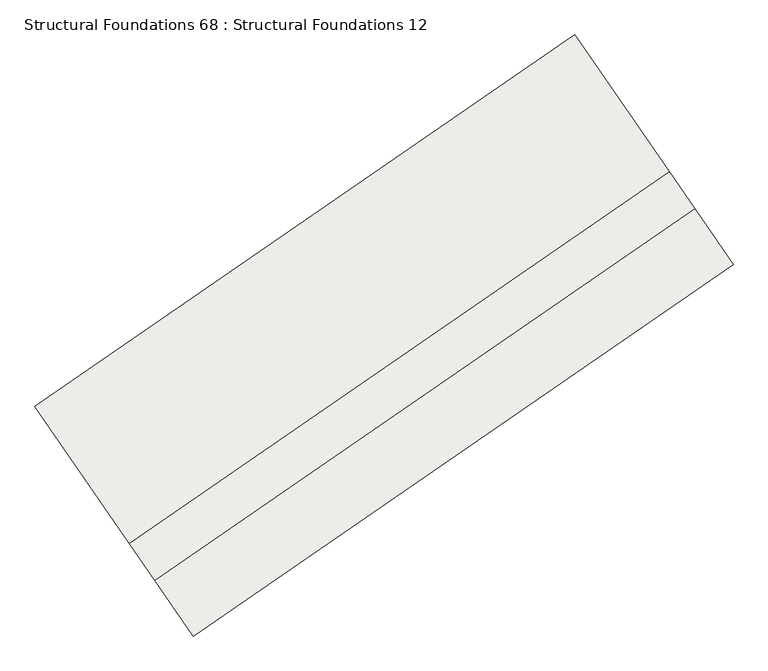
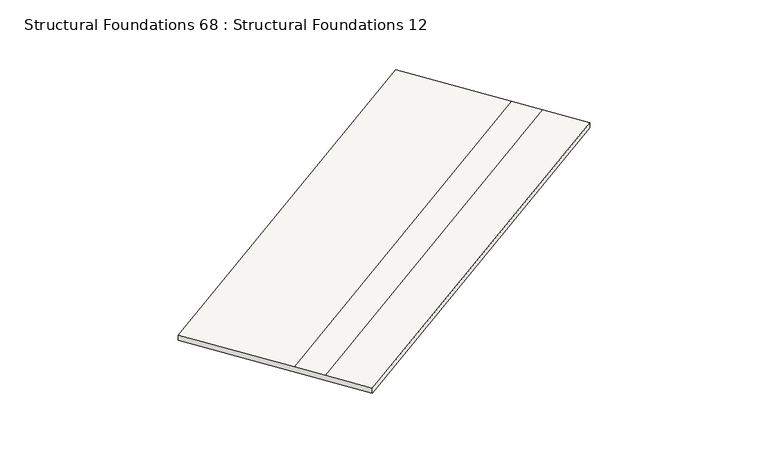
"""IFC4 building model written with IfcOpenShell, lengths in millimetres: slab geometry, Structural Foundations 68 : Structural Foundations 12."""

from ifc_helpers import new_model, si_unit, origin, place, context, project, spatial, faceted_brep, source, transform, mapped, element, save


def structural_foundations_68_structural_foundations_12_c62d2eca(model_context):
    return source(origin(), model_context, "Body", "Brep", [
        faceted_brep([(-303267.9178855, -413289.4170227, 634256.2197904), (-302757.3762713, -414030.5966646, 634256.2197903), (-302757.3762713, -414030.5966646, 634156.2197903), (-304856.2695722, -410983.524806, 634156.2197908), (-304856.2695722, -410983.524806, 634256.2197908), (-303605.4426183, -412799.4149275, 634256.2197905), (-310432.6544179, -418224.6526221, 634182.2197904), (-310770.1791507, -417734.6505269, 634182.2197905), (-312021.0061046, -415918.7604054, 634182.2197908), (-312021.0061046, -415918.7604054, 634082.2197908), (-309922.1128037, -418965.832264, 634082.2197903), (-309922.1128037, -418965.832264, 634182.2197903)], [[[0, 1, 2, 3, 4, 5]], [[6, 7, 8, 9, 10, 11]], [[8, 7, 5, 4]], [[7, 6, 0, 5]], [[6, 11, 1, 0]], [[11, 10, 2, 1]], [[10, 9, 3, 2]], [[9, 8, 4, 3]]]),
    ])


if __name__ == "__main__":
    model = new_model("IFC4")
    model_context = context("Model", 3, world=origin())
    ifc_project = project(units=[si_unit("LENGTHUNIT", "METRE", prefix="MILLI")], contexts=[model_context])
    site = spatial("IfcSite", under=ifc_project)
    building = spatial("IfcBuilding", under=site)
    placement = place(None, origin())
    structural_foundations_68_structural_foundations_12_shape = structural_foundations_68_structural_foundations_12_c62d2eca(model_context)
    element("IfcSlab", 1, ObjectType="Structural Foundations 68 : Structural Foundations 12", at=placement, inside=building, context=model_context, shape_type="MappedRepresentation", body=[
        mapped(structural_foundations_68_structural_foundations_12_shape, transform((0.0, 0.0, 0.0), x_axis=(1.0, 0.0, 0.0), y_axis=(0.0, 1.0, 0.0), z_axis=(0.0, 0.0, 1.0))),
    ])
    save(model, "model.ifc")
